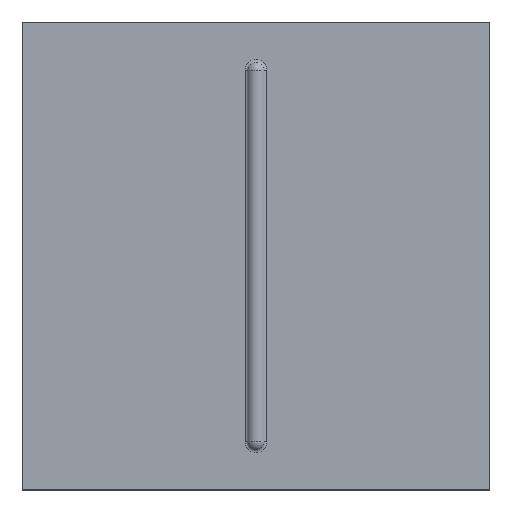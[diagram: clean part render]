
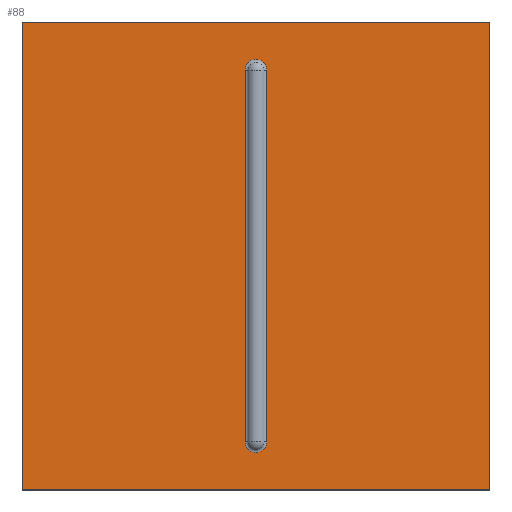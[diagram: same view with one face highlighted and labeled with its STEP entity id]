
A CAD part, top view. The second image highlights one B-rep face of the part: STEP entity #88.
In plain terms, the highlighted planar face has unit normal (0, 0, 1).
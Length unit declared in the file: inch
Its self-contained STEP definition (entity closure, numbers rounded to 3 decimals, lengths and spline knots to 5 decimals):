
#88=ADVANCED_FACE('',(#123,#124),#125,.F.);
#123=FACE_OUTER_BOUND('',#165,.T.);
#124=FACE_BOUND('',#166,.T.);
#125=PLANE('',#167);
#165=EDGE_LOOP('',(#269,#270,#271,#272));
#166=EDGE_LOOP('',(#273,#274,#275,#276));
#167=AXIS2_PLACEMENT_3D('',#277,#278,#279);
#269=ORIENTED_EDGE('',*,*,#351,.T.);
#270=ORIENTED_EDGE('',*,*,#352,.F.);
#271=ORIENTED_EDGE('',*,*,#353,.F.);
#272=ORIENTED_EDGE('',*,*,#354,.F.);
#273=ORIENTED_EDGE('',*,*,#341,.F.);
#274=ORIENTED_EDGE('',*,*,#343,.F.);
#275=ORIENTED_EDGE('',*,*,#346,.F.);
#276=ORIENTED_EDGE('',*,*,#349,.F.);
#277=CARTESIAN_POINT('',(0.48977,-0.12964,2.048));
#278=DIRECTION('',(0.0,0.0,-1.0));
#279=DIRECTION('',(0.0,1.0,0.0));
#341=EDGE_CURVE('',#395,#390,#397,.T.);
#343=EDGE_CURVE('',#399,#395,#401,.T.);
#346=EDGE_CURVE('',#404,#399,#406,.T.);
#349=EDGE_CURVE('',#390,#404,#409,.T.);
#351=EDGE_CURVE('',#411,#412,#413,.T.);
#352=EDGE_CURVE('',#414,#412,#415,.T.);
#353=EDGE_CURVE('',#416,#414,#417,.T.);
#354=EDGE_CURVE('',#411,#416,#418,.T.);
#390=VERTEX_POINT('',#462);
#395=VERTEX_POINT('',#468);
#397=LINE('',#470,#471);
#399=VERTEX_POINT('',#473);
#401=CIRCLE('',#475,0.09327);
#404=VERTEX_POINT('',#478);
#406=LINE('',#480,#481);
#409=CIRCLE('',#485,0.09327);
#411=VERTEX_POINT('',#487);
#412=VERTEX_POINT('',#488);
#413=LINE('',#489,#490);
#414=VERTEX_POINT('',#491);
#415=LINE('',#492,#493);
#416=VERTEX_POINT('',#494);
#417=LINE('',#495,#496);
#418=LINE('',#497,#498);
#462=CARTESIAN_POINT('',(0.58304,1.45673,2.048));
#468=CARTESIAN_POINT('',(0.58304,-1.716,2.048));
#470=CARTESIAN_POINT('',(0.58304,-0.12964,2.048));
#471=VECTOR('',#553,1.0);
#473=CARTESIAN_POINT('',(0.3965,-1.716,2.048));
#475=AXIS2_PLACEMENT_3D('',#557,#558,#559);
#478=CARTESIAN_POINT('',(0.3965,1.45673,2.048));
#480=CARTESIAN_POINT('',(0.3965,-0.12964,2.048));
#481=VECTOR('',#566,1.0);
#485=AXIS2_PLACEMENT_3D('',#571,#572,#573);
#487=CARTESIAN_POINT('',(2.48977,-2.12964,2.048));
#488=CARTESIAN_POINT('',(2.48977,1.87036,2.048));
#489=CARTESIAN_POINT('',(2.48977,-0.12964,2.048));
#490=VECTOR('',#577,1.0);
#491=CARTESIAN_POINT('',(-1.51023,1.87036,2.048));
#492=CARTESIAN_POINT('',(0.48977,1.87036,2.048));
#493=VECTOR('',#578,1.0);
#494=CARTESIAN_POINT('',(-1.51023,-2.12964,2.048));
#495=CARTESIAN_POINT('',(-1.51023,-0.12964,2.048));
#496=VECTOR('',#579,1.0);
#497=CARTESIAN_POINT('',(0.48977,-2.12964,2.048));
#498=VECTOR('',#580,1.0);
#553=DIRECTION('',(-0.0,1.0,-0.0));
#557=CARTESIAN_POINT('',(0.48977,-1.716,2.048));
#558=DIRECTION('',(0.0,0.0,1.0));
#559=DIRECTION('',(0.,-1.0,0.0));
#566=DIRECTION('',(0.0,-1.0,0.0));
#571=CARTESIAN_POINT('',(0.48977,1.45673,2.048));
#572=DIRECTION('',(0.0,-0.0,1.0));
#573=DIRECTION('',(0.0,1.0,0.0));
#577=DIRECTION('',(0.0,1.0,0.0));
#578=DIRECTION('',(1.0,0.0,0.0));
#579=DIRECTION('',(0.0,1.0,0.0));
#580=DIRECTION('',(-1.0,0.0,0.0));
